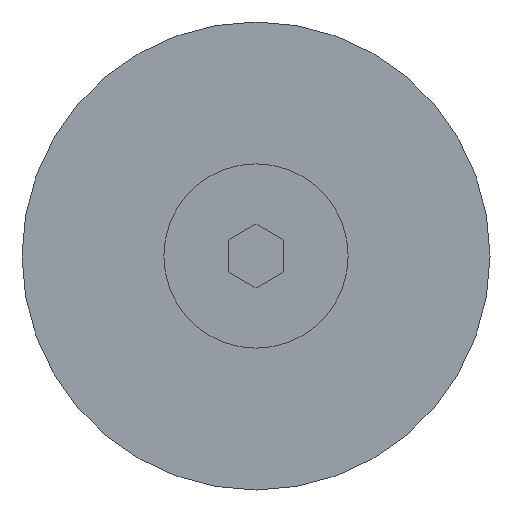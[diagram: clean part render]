
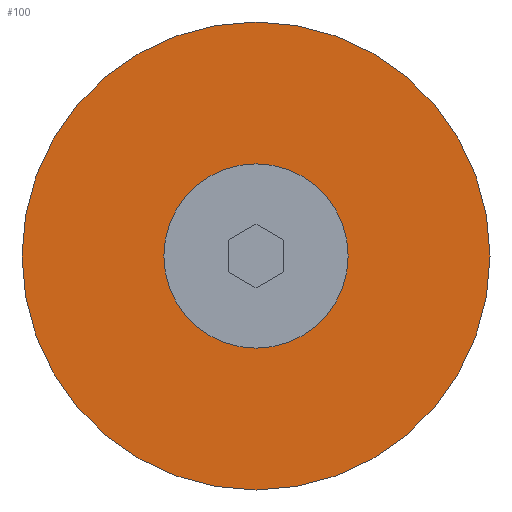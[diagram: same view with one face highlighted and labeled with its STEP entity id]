
A CAD part, front view. The second image highlights one B-rep face of the part: STEP entity #100.
In plain terms, the highlighted planar face has unit normal (0, -1, 0).
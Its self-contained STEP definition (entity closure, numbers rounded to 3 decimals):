
#100=ADVANCED_FACE('',(#172,#173),#174,.F.);
#172=FACE_OUTER_BOUND('',#265,.T.);
#173=FACE_BOUND('',#266,.T.);
#174=PLANE('',#267);
#265=EDGE_LOOP('',(#492,#493));
#266=EDGE_LOOP('',(#494,#495));
#267=AXIS2_PLACEMENT_3D('',#496,#497,#498);
#492=ORIENTED_EDGE('',*,*,#642,.T.);
#493=ORIENTED_EDGE('',*,*,#661,.T.);
#494=ORIENTED_EDGE('',*,*,#660,.F.);
#495=ORIENTED_EDGE('',*,*,#644,.F.);
#496=CARTESIAN_POINT('',(-6.35,-4.0,0.0));
#497=DIRECTION('',(-0.0,1.0,0.0));
#498=DIRECTION('',(1.0,0.0,0.0));
#642=EDGE_CURVE('',#748,#750,#752,.T.);
#644=EDGE_CURVE('',#753,#756,#757,.T.);
#660=EDGE_CURVE('',#756,#753,#782,.T.);
#661=EDGE_CURVE('',#750,#748,#783,.T.);
#748=VERTEX_POINT('',#914);
#750=VERTEX_POINT('',#917);
#752=CIRCLE('',#920,6.35);
#753=VERTEX_POINT('',#921);
#756=VERTEX_POINT('',#925);
#757=CIRCLE('',#926,2.5);
#782=CIRCLE('',#956,2.5);
#783=CIRCLE('',#957,6.35);
#914=CARTESIAN_POINT('',(0.,-4.0,-6.35));
#917=CARTESIAN_POINT('',(0.,-4.0,6.35));
#920=AXIS2_PLACEMENT_3D('',#1136,#1137,#1138);
#921=CARTESIAN_POINT('',(0.,-4.0,-2.5));
#925=CARTESIAN_POINT('',(0.,-4.0,2.5));
#926=AXIS2_PLACEMENT_3D('',#1140,#1141,#1142);
#956=AXIS2_PLACEMENT_3D('',#1178,#1179,#1180);
#957=AXIS2_PLACEMENT_3D('',#1181,#1182,#1183);
#1136=CARTESIAN_POINT('',(0.,-4.0,0.0));
#1137=DIRECTION('',(0.0,-1.0,0.0));
#1138=DIRECTION('',(0.0,0.0,-1.0));
#1140=CARTESIAN_POINT('',(0.,-4.0,0.0));
#1141=DIRECTION('',(0.0,-1.0,0.0));
#1142=DIRECTION('',(0.0,0.0,-1.0));
#1178=CARTESIAN_POINT('',(0.,-4.0,0.0));
#1179=DIRECTION('',(0.0,-1.0,0.0));
#1180=DIRECTION('',(0.0,0.0,-1.0));
#1181=CARTESIAN_POINT('',(0.,-4.0,0.0));
#1182=DIRECTION('',(0.0,-1.0,0.0));
#1183=DIRECTION('',(0.0,0.0,-1.0));
